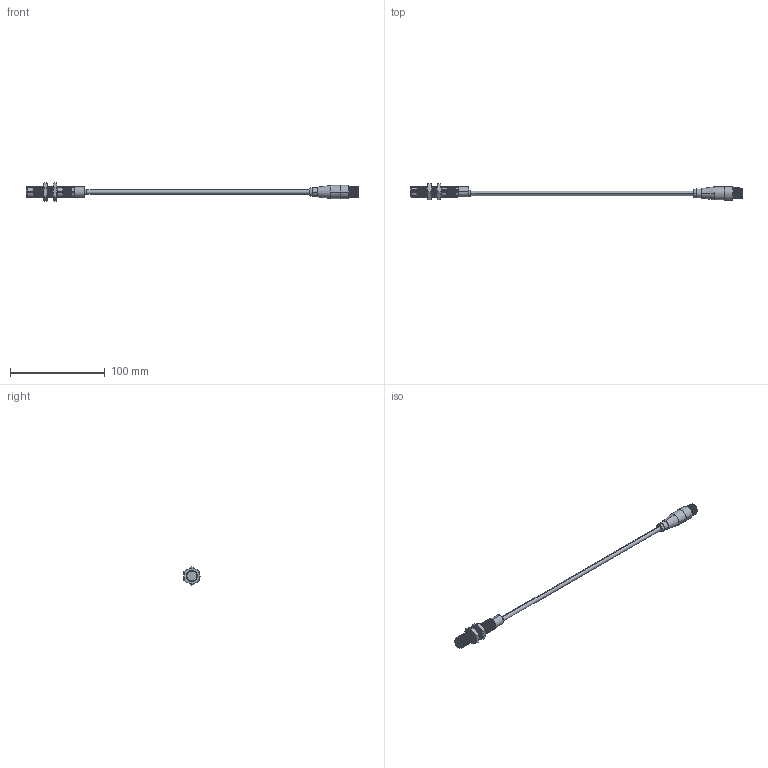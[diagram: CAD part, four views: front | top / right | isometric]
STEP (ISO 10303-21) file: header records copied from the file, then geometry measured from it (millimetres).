
FILE_DESCRIPTION (( 'STEP AP214' ), '1' );
FILE_NAME ('90-XXXX-011.STEP', '2015-10-28T13:11:36', ( 'Sam' ), ( 'Spade' ), 'SwSTEP 2.0', 'SolidWorks 2002296', '' );
FILE_SCHEMA (( 'AUTOMOTIVE_DESIGN' ));
Length unit declared in the file: inch
Products named in the file (12): 90-XXXX-011; Imported108; Imported107; Imported100; Imported105; Imported104; Imported106; Imported103; Imported102; Imported101; Imported110; Imported109
Assembly tree (11 placements, depth 2):
  90-XXXX-011
    Imported102
    Imported110
    Imported109
    Imported105
    Imported103
    Imported106
    Imported108
    Imported104
    Imported101
    Imported107
    Imported100
Bounding box: 351.08 x 17.11 x 19.47 mm (x, y, z)
Volume: 17606.5 mm3; surface area: 12998.4 mm2
Topology: 11 solids, 11 shells, 511 faces, 1211 edges, 728 vertices
Faces by surface type: cone 303, cylinder 143, plane 49, bspline 16
Entity records: 15620 total; most frequent: CARTESIAN_POINT 3045, DIRECTION 2876, ORIENTED_EDGE 2410, AXIS2_PLACEMENT_3D 1212, EDGE_CURVE 1205, VERTEX_POINT 728, CIRCLE 703, EDGE_LOOP 529
